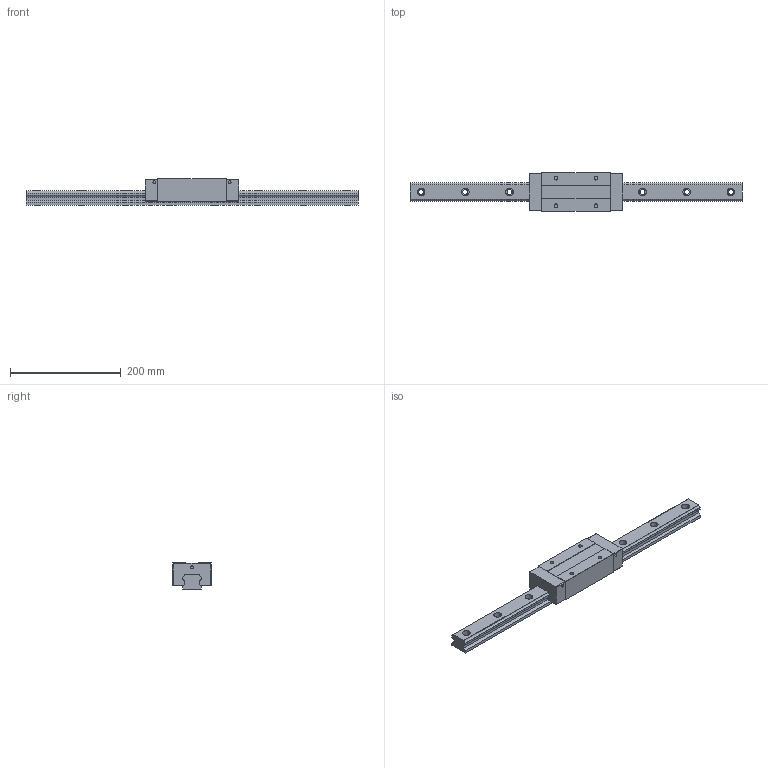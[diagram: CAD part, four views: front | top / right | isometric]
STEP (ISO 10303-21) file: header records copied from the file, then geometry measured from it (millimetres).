
FILE_DESCRIPTION (( 'STEP AP203' ), '1' );
FILE_NAME ('TRS35VE-DU.STEP', '2024-07-12T03:16:32', ( '' ), ( '' ), 'SwSTEP 2.0', 'SolidWorks 2022', '' );
FILE_SCHEMA (( 'CONFIG_CONTROL_DESIGN' ));
Length unit declared in the file: millimetre
Products named in the file (1): TRS35VE-DU
Bounding box: 600 x 70 x 48 mm (x, y, z)
Volume: 824439.4 mm3; surface area: 132826.6 mm2
Topology: 2 solids, 2 shells, 178 faces, 464 edges, 308 vertices
Faces by surface type: plane 90, cylinder 88
Entity records: 5619 total; most frequent: DIRECTION 998, CARTESIAN_POINT 951, ORIENTED_EDGE 928, EDGE_CURVE 464, AXIS2_PLACEMENT_3D 355, VERTEX_POINT 308, LINE 288, VECTOR 288
